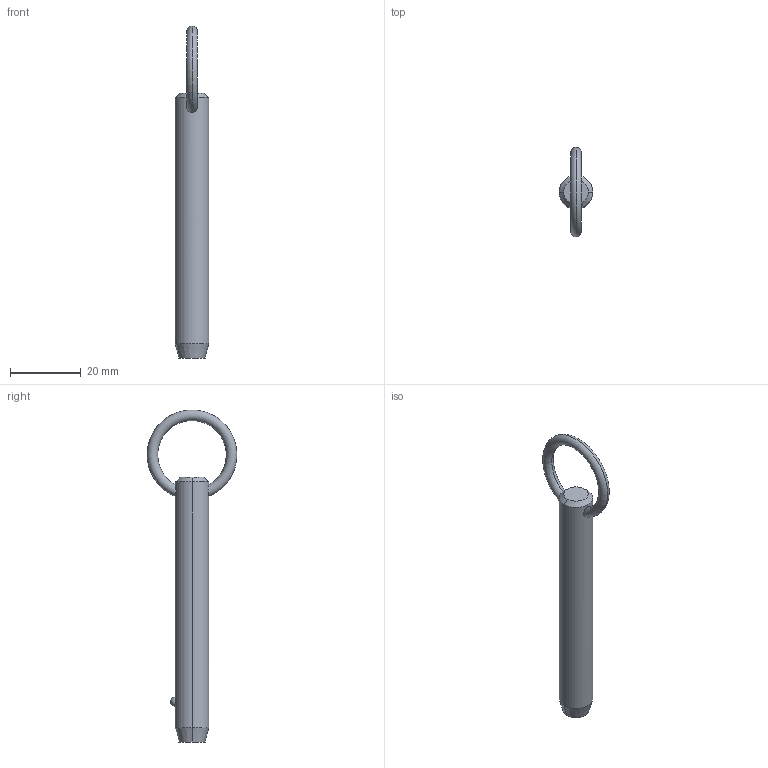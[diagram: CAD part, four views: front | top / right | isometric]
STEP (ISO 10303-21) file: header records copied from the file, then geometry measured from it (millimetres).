
FILE_DESCRIPTION (( 'STEP AP203' ), '1' );
FILE_NAME ('P1250.037-220.step', '2019-07-29T20:01:55', ( '' ), ( '' ), 'SwSTEP 2.0', 'SolidWorks 2017', '' );
FILE_SCHEMA (( 'CONFIG_CONTROL_DESIGN' ));
Length unit declared in the file: millimetre
Products named in the file (1): P1250.037-220
Bounding box: 9.52 x 25.39 x 94 mm (x, y, z)
Volume: 5686.2 mm3; surface area: 2883.8 mm2
Topology: 1 solids, 1 shells, 12 faces, 28 edges, 17 vertices
Faces by surface type: cone 4, torus 2, sphere 2, cylinder 2, plane 2
Entity records: 523 total; most frequent: CARTESIAN_POINT 190, DIRECTION 56, ORIENTED_EDGE 48, AXIS2_PLACEMENT_3D 25, EDGE_CURVE 24, EDGE_LOOP 15, VERTEX_POINT 15, FACE_OUTER_BOUND 12
